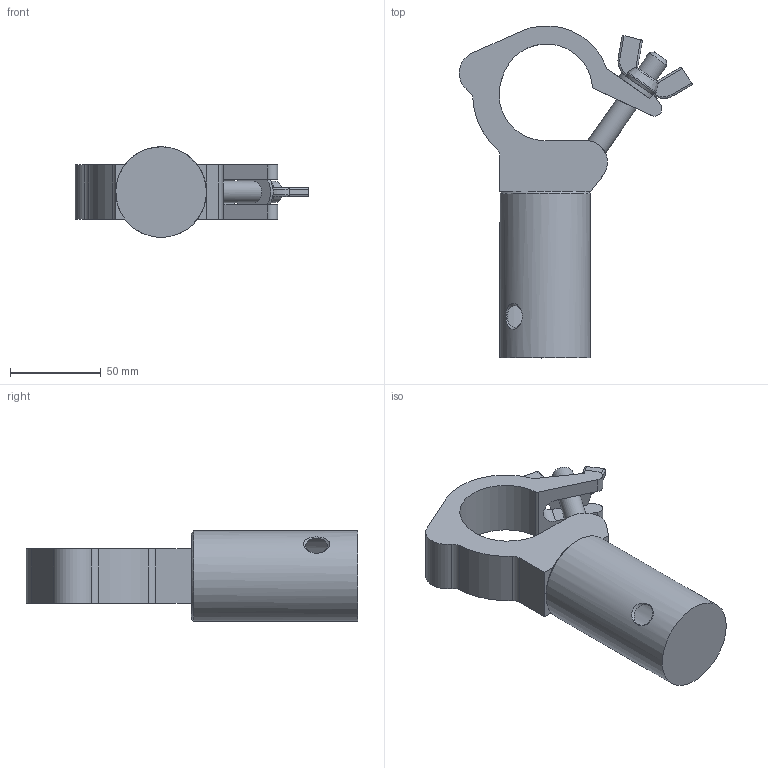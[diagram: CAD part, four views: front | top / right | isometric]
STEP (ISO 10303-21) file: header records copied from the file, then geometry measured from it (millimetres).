
FILE_DESCRIPTION(/* description */ (''),/* implementation_level */ '2;1');
FILE_NAME(/* name */ 'K:\Techniek\CAD Tekeningen\Inventor transport\Cas\Cad Blokken\Catalogus\CS1-DCxx\CS1-DC12S.stp',/* time_stamp */ '2021-08-02T11:04:05+02:00',/* author */ ('Cas'),/* organization */ (''),/* preprocessor_version */ 'ST-DEVELOPER v18',/* originating_system */ 'Autodesk Inventor 2020',/* authorisation */ '');
FILE_SCHEMA (('AUTOMOTIVE_DESIGN { 1 0 10303 214 3 1 1 }'));
Length unit declared in the file: millimetre
Products named in the file (1): CS1-DC12S
Bounding box: 129.05 x 183.33 x 49.92 mm (x, y, z)
Volume: 292360.4 mm3; surface area: 42903.2 mm2
Topology: 1 solids, 1 shells, 81 faces, 225 edges, 145 vertices
Faces by surface type: plane 37, cylinder 28, torus 8, cone 8
Full cylindrical faces by diameter (mm): 12 x2, 50 x1
Entity records: 2997 total; most frequent: CARTESIAN_POINT 732, ORIENTED_EDGE 458, DIRECTION 438, EDGE_CURVE 229, AXIS2_PLACEMENT_3D 165, VERTEX_POINT 145, LINE 108, VECTOR 108
